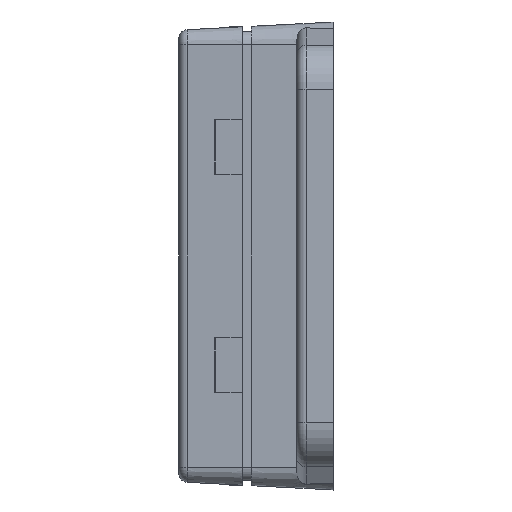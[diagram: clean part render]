
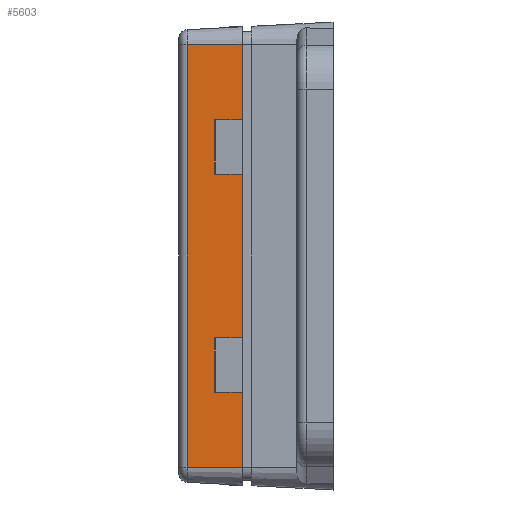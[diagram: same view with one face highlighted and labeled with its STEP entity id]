
A CAD part, left-side view. The second image highlights one B-rep face of the part: STEP entity #5603.
In plain terms, the highlighted planar face has unit normal (-0.999, 0.052, 0).
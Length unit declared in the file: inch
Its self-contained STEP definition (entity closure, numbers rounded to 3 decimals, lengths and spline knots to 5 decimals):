
#1 = VECTOR ( 'NONE', #6000, 39.37008 ) ;
#21 = DIRECTION ( 'NONE',  ( 0.052, 0.999, 0. ) ) ;
#48 = EDGE_CURVE ( 'NONE', #2862, #1674, #4952, .T. ) ;
#53 = VECTOR ( 'NONE', #1354, 39.37008 ) ;
#69 = VECTOR ( 'NONE', #5702, 39.37008 ) ;
#82 = ORIENTED_EDGE ( 'NONE', *, *, #48, .T. ) ;
#89 = VECTOR ( 'NONE', #5444, 39.37008 ) ;
#200 = VERTEX_POINT ( 'NONE', #2898 ) ;
#222 = CARTESIAN_POINT ( 'NONE',  ( -1.37164, 0.5142, -0.99213 ) ) ;
#234 = CARTESIAN_POINT ( 'NONE',  ( -1.37795, 0.3937, -0.91339 ) ) ;
#289 = EDGE_LOOP ( 'NONE', ( #4265, #4459, #1900, #6084, #5634, #329, #2090, #82, #2415, #5833, #3464, #5999 ) ) ;
#329 = ORIENTED_EDGE ( 'NONE', *, *, #3184, .T. ) ;
#570 = VECTOR ( 'NONE', #3058, 39.37008 ) ;
#581 = LINE ( 'NONE', #4887, #5910 ) ;
#745 = LINE ( 'NONE', #234, #89 ) ;
#791 = LINE ( 'NONE', #4787, #69 ) ;
#815 = CARTESIAN_POINT ( 'NONE',  ( -1.37164, 0.5142, 0.35433 ) ) ;
#865 = CARTESIAN_POINT ( 'NONE',  ( -1.37164, 0.5142, -0.35433 ) ) ;
#955 = EDGE_CURVE ( 'NONE', #4780, #1877, #4168, .T. ) ;
#984 = VERTEX_POINT ( 'NONE', #4934 ) ;
#999 = CARTESIAN_POINT ( 'NONE',  ( -1.37795, 0.3937, -0.59055 ) ) ;
#1018 = VECTOR ( 'NONE', #2798, 39.37008 ) ;
#1140 = EDGE_CURVE ( 'NONE', #2544, #3510, #4931, .T. ) ;
#1192 = DIRECTION ( 'NONE',  ( -0.999, 0.052, 0. ) ) ;
#1256 = EDGE_CURVE ( 'NONE', #6005, #2862, #5577, .T. ) ;
#1354 = DIRECTION ( 'NONE',  ( 0., 0., 1. ) ) ;
#1371 = CARTESIAN_POINT ( 'NONE',  ( -1.37795, 0.3937, -0.99213 ) ) ;
#1400 = CARTESIAN_POINT ( 'NONE',  ( -1.37795, 0.3937, -0.59055 ) ) ;
#1456 = VECTOR ( 'NONE', #4340, 39.37008 ) ;
#1465 = DIRECTION ( 'NONE',  ( 0., 0., 1. ) ) ;
#1605 = CARTESIAN_POINT ( 'NONE',  ( -1.37164, 0.5142, 0.59055 ) ) ;
#1674 = VERTEX_POINT ( 'NONE', #1904 ) ;
#1877 = VERTEX_POINT ( 'NONE', #1605 ) ;
#1900 = ORIENTED_EDGE ( 'NONE', *, *, #3292, .T. ) ;
#1904 = CARTESIAN_POINT ( 'NONE',  ( -1.36546, 0.63198, 0.91339 ) ) ;
#1928 = EDGE_CURVE ( 'NONE', #4216, #200, #745, .T. ) ;
#2090 = ORIENTED_EDGE ( 'NONE', *, *, #1256, .T. ) ;
#2279 = DIRECTION ( 'NONE',  ( 0., 0., 1. ) ) ;
#2306 = CARTESIAN_POINT ( 'NONE',  ( -1.37795, 0.3937, 0.91339 ) ) ;
#2326 = EDGE_CURVE ( 'NONE', #200, #6072, #2424, .T. ) ;
#2331 = LINE ( 'NONE', #4737, #1456 ) ;
#2415 = ORIENTED_EDGE ( 'NONE', *, *, #3506, .F. ) ;
#2424 = LINE ( 'NONE', #1371, #5480 ) ;
#2544 = VERTEX_POINT ( 'NONE', #5425 ) ;
#2548 = DIRECTION ( 'NONE',  ( 0., 0., 1. ) ) ;
#2717 = CARTESIAN_POINT ( 'NONE',  ( -1.37795, 0.3937, 0.91339 ) ) ;
#2719 = EDGE_CURVE ( 'NONE', #3510, #5044, #5023, .T. ) ;
#2742 = CARTESIAN_POINT ( 'NONE',  ( -1.37164, 0.5142, -0.99213 ) ) ;
#2798 = DIRECTION ( 'NONE',  ( 0.052, 0.999, 0. ) ) ;
#2862 = VERTEX_POINT ( 'NONE', #2717 ) ;
#2898 = CARTESIAN_POINT ( 'NONE',  ( -1.37795, 0.3937, -0.91339 ) ) ;
#3042 = EDGE_CURVE ( 'NONE', #984, #4780, #2331, .T. ) ;
#3058 = DIRECTION ( 'NONE',  ( 0., 0., 1. ) ) ;
#3111 = DIRECTION ( 'NONE',  ( -0.052, -0.999, 0. ) ) ;
#3184 = EDGE_CURVE ( 'NONE', #1877, #6005, #791, .T. ) ;
#3292 = EDGE_CURVE ( 'NONE', #5044, #984, #581, .T. ) ;
#3464 = ORIENTED_EDGE ( 'NONE', *, *, #2326, .T. ) ;
#3506 = EDGE_CURVE ( 'NONE', #4216, #1674, #3661, .T. ) ;
#3510 = VERTEX_POINT ( 'NONE', #865 ) ;
#3530 = FACE_OUTER_BOUND ( 'NONE', #289, .T. ) ;
#3661 = LINE ( 'NONE', #4675, #4251 ) ;
#3713 = EDGE_CURVE ( 'NONE', #6072, #2544, #3893, .T. ) ;
#3802 = VECTOR ( 'NONE', #2279, 39.37008 ) ;
#3893 = LINE ( 'NONE', #1400, #5903 ) ;
#4012 = CARTESIAN_POINT ( 'NONE',  ( -1.37795, 0.3937, -0.99213 ) ) ;
#4032 = PLANE ( 'NONE',  #4871 ) ;
#4168 = LINE ( 'NONE', #222, #570 ) ;
#4172 = CARTESIAN_POINT ( 'NONE',  ( -1.37795, 0.3937, -0.35433 ) ) ;
#4216 = VERTEX_POINT ( 'NONE', #5926 ) ;
#4251 = VECTOR ( 'NONE', #5633, 39.37008 ) ;
#4265 = ORIENTED_EDGE ( 'NONE', *, *, #1140, .T. ) ;
#4340 = DIRECTION ( 'NONE',  ( 0.052, 0.999, 0. ) ) ;
#4459 = ORIENTED_EDGE ( 'NONE', *, *, #2719, .T. ) ;
#4675 = CARTESIAN_POINT ( 'NONE',  ( -1.36546, 0.63198, -0.91339 ) ) ;
#4737 = CARTESIAN_POINT ( 'NONE',  ( -1.37795, 0.3937, 0.35433 ) ) ;
#4780 = VERTEX_POINT ( 'NONE', #815 ) ;
#4787 = CARTESIAN_POINT ( 'NONE',  ( -1.37795, 0.3937, 0.59055 ) ) ;
#4871 = AXIS2_PLACEMENT_3D ( 'NONE', #4012, #1192, #3111 ) ;
#4887 = CARTESIAN_POINT ( 'NONE',  ( -1.37795, 0.3937, -0.99213 ) ) ;
#4931 = LINE ( 'NONE', #2742, #3802 ) ;
#4934 = CARTESIAN_POINT ( 'NONE',  ( -1.37795, 0.3937, 0.35433 ) ) ;
#4952 = LINE ( 'NONE', #2306, #1018 ) ;
#5023 = LINE ( 'NONE', #5485, #1 ) ;
#5044 = VERTEX_POINT ( 'NONE', #4172 ) ;
#5087 = CARTESIAN_POINT ( 'NONE',  ( -1.37795, 0.3937, -0.99213 ) ) ;
#5425 = CARTESIAN_POINT ( 'NONE',  ( -1.37164, 0.5142, -0.59055 ) ) ;
#5444 = DIRECTION ( 'NONE',  ( -0.052, -0.999, 0. ) ) ;
#5480 = VECTOR ( 'NONE', #1465, 39.37008 ) ;
#5485 = CARTESIAN_POINT ( 'NONE',  ( -1.37795, 0.3937, -0.35433 ) ) ;
#5577 = LINE ( 'NONE', #5087, #53 ) ;
#5603 = ADVANCED_FACE ( 'NONE', ( #3530 ), #4032, .T. ) ;
#5633 = DIRECTION ( 'NONE',  ( 0., 0., 1. ) ) ;
#5634 = ORIENTED_EDGE ( 'NONE', *, *, #955, .T. ) ;
#5702 = DIRECTION ( 'NONE',  ( -0.052, -0.999, 0. ) ) ;
#5738 = CARTESIAN_POINT ( 'NONE',  ( -1.37795, 0.3937, 0.59055 ) ) ;
#5833 = ORIENTED_EDGE ( 'NONE', *, *, #1928, .T. ) ;
#5903 = VECTOR ( 'NONE', #21, 39.37008 ) ;
#5910 = VECTOR ( 'NONE', #2548, 39.37008 ) ;
#5926 = CARTESIAN_POINT ( 'NONE',  ( -1.36546, 0.63198, -0.91339 ) ) ;
#5999 = ORIENTED_EDGE ( 'NONE', *, *, #3713, .T. ) ;
#6000 = DIRECTION ( 'NONE',  ( -0.052, -0.999, 0. ) ) ;
#6005 = VERTEX_POINT ( 'NONE', #5738 ) ;
#6072 = VERTEX_POINT ( 'NONE', #999 ) ;
#6084 = ORIENTED_EDGE ( 'NONE', *, *, #3042, .T. ) ;
